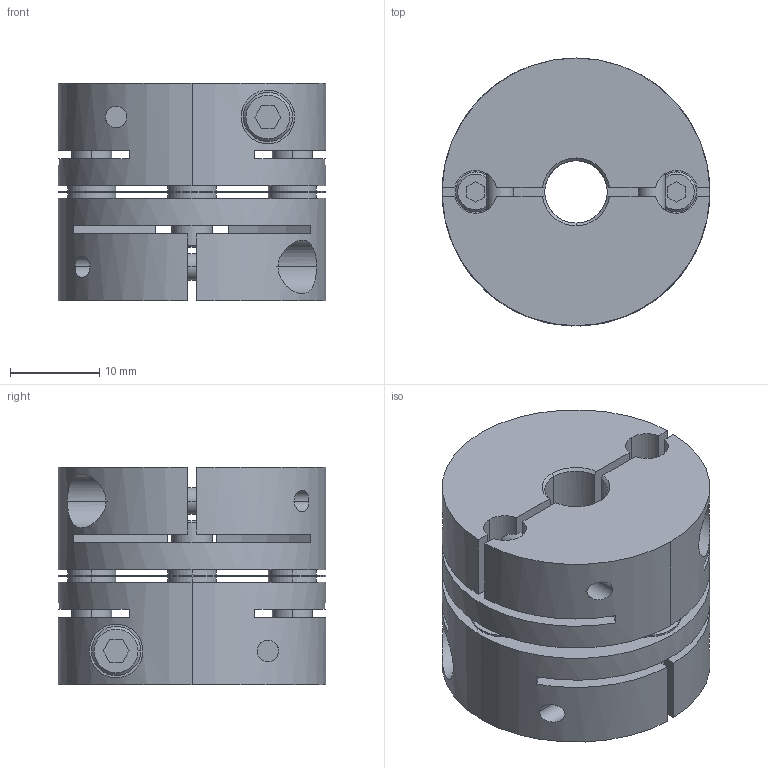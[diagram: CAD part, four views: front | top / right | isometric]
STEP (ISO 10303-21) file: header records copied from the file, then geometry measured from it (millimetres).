
FILE_DESCRIPTION((''),'2;1');
FILE_NAME('LAS-30C-7×9.525.stp','2015-10-14T15:17:48',(''),(''),'AutoCAD STEP 2000i','AutoCAD 2000i',', , ');
FILE_SCHEMA(('CONFIG_CONTROL_DESIGN'));
Length unit declared in the file: millimetre
Products named in the file (5): LAS-30C-6×6; 忣兜1; LA-3002-D06-1; LA-3002-D06; LAS30-ITA
Assembly tree (4 placements, depth 2):
  LAS-30C-6×6
    忣兜1
    LA-3002-D06-1
    LA-3002-D06
    LAS30-ITA
Bounding box: 30 x 30 x 24.4 mm (x, y, z)
Volume: 13213.5 mm3; surface area: 9175.9 mm2
Topology: 1 solids, 1 shells, 236 faces, 624 edges, 408 vertices
Faces by surface type: plane 112, cylinder 96, cone 28
Entity records: 8139 total; most frequent: CARTESIAN_POINT 1945, DIRECTION 1302, ORIENTED_EDGE 1248, EDGE_CURVE 624, AXIS2_PLACEMENT_3D 477, VERTEX_POINT 408, VECTOR 348, LINE 348
